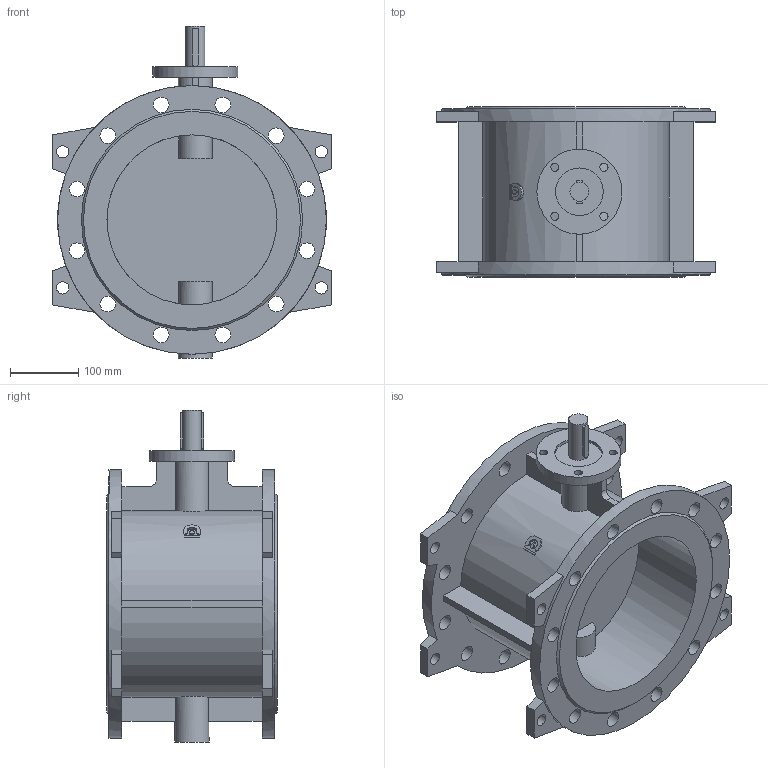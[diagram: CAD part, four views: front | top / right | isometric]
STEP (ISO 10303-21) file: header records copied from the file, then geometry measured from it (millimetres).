
FILE_DESCRIPTION(('STEP AP203'), '1');
FILE_NAME('Çàòâîð 023F.Z DN250 PN10 ïîä èñïîëíèòåëüíûé ìåõàíèçì', '', ('UNSPECIFIED'), ('UNSPECIFIED'), 'ASCON STEP Converter 1.6', 'ASCON Math Kernel', '');
FILE_SCHEMA(('CONFIG_CONTROL_DESIGN'));
Length unit declared in the file: millimetre
Bounding box: 410 x 250 x 488 mm (x, y, z)
Volume: 7339039.9 mm3; surface area: 938004.2 mm2
Topology: 1 solids, 1 shells, 150 faces, 405 edges, 270 vertices
Faces by surface type: plane 85, cylinder 63, cone 2
Full cylindrical faces by diameter (mm): 12 x4, 18 x8, 23 x24, 28 x1, 50 x1, 70 x1, 125 x1, 250 x2, 395 x2
Entity records: 7032 total; most frequent: CARTESIAN_POINT 1952, DIRECTION 782, ORIENTED_EDGE 716, EDGE_CURVE 358, AXIS2_PLACEMENT_3D 292, EDGE_LOOP 282, VERTEX_POINT 270, LINE 198
